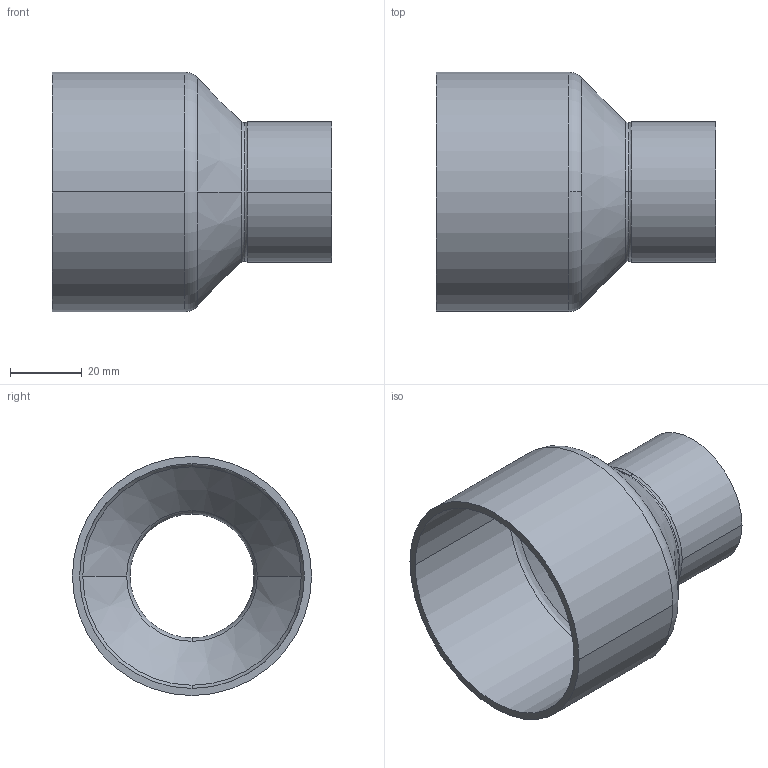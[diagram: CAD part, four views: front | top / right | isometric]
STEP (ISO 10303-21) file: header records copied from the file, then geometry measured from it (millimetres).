
FILE_DESCRIPTION((''),'2;1');
FILE_NAME('G:\Technics\CAD\Bauteile\Serie 15243\152436735.stp','2005-10-21T12:49:49',('boden'),(''),'Autodesk Inventor 8','Autodesk Inventor 8','');
FILE_SCHEMA(('AUTOMOTIVE_DESIGN { 1 0 10303 214 1 1 1 1 }'));
Length unit declared in the file: millimetre
Products named in the file (1): 152436735
Bounding box: 78 x 66.7 x 66.7 mm (x, y, z)
Volume: 27863.5 mm3; surface area: 28504.7 mm2
Topology: 1 solids, 1 shells, 26 faces, 68 edges, 44 vertices
Faces by surface type: cylinder 8, torus 6, bspline 6, cone 4, plane 2
Entity records: 1103 total; most frequent: CARTESIAN_POINT 403, DIRECTION 166, ORIENTED_EDGE 136, AXIS2_PLACEMENT_3D 77, EDGE_CURVE 68, CIRCLE 56, VERTEX_POINT 44, EDGE_LOOP 28
